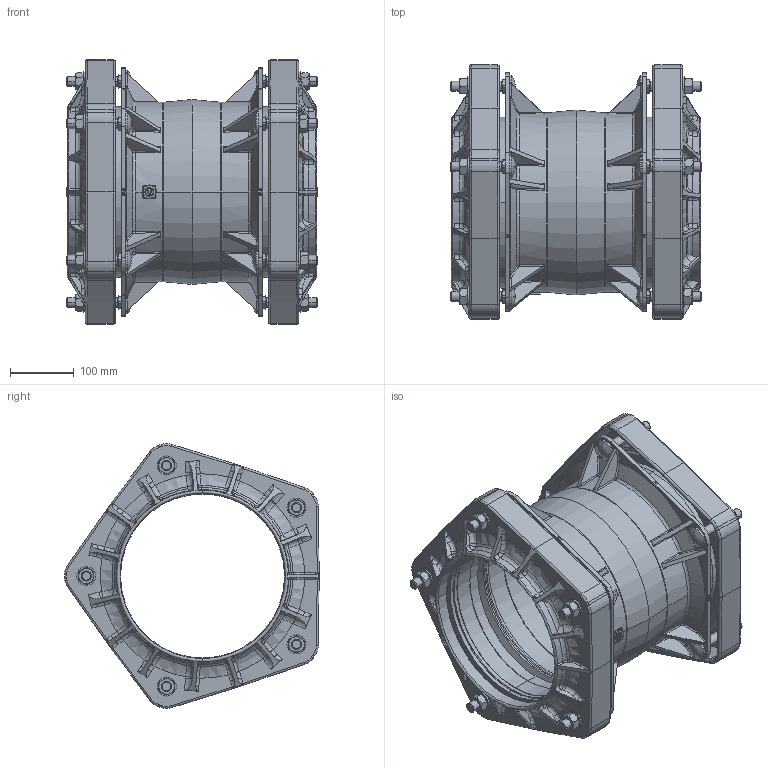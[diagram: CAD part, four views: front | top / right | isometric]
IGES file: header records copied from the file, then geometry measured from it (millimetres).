
Global section: file name: No Iges File Name specified; native system: AutoDesk Inventor R12.0; preprocessor: AutoDesk Inventor Iges Exporter R12.0; date: 20120501.165537; units: millimetre
Bounding box: 393 x 398.7 x 414.55 mm (x, y, z)
Volume: 4898860.3 mm3; surface area: 1446180.9 mm2
Topology: 1 solids, 1 shells, 2399 faces, 6226 edges, 3878 vertices
Faces by surface type: plane 726, bspline 680, revolution 371, cylinder 281, cone 237, torus 104
